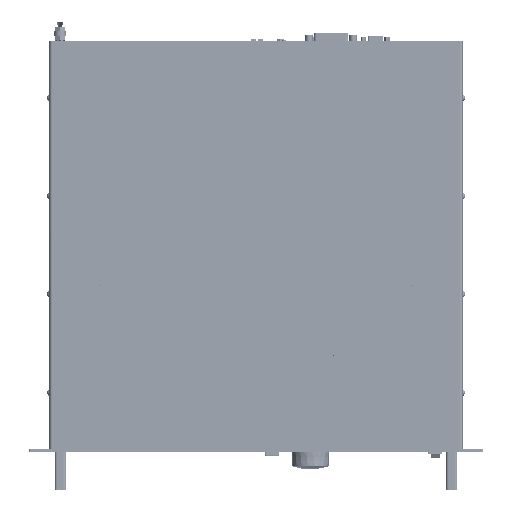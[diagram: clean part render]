
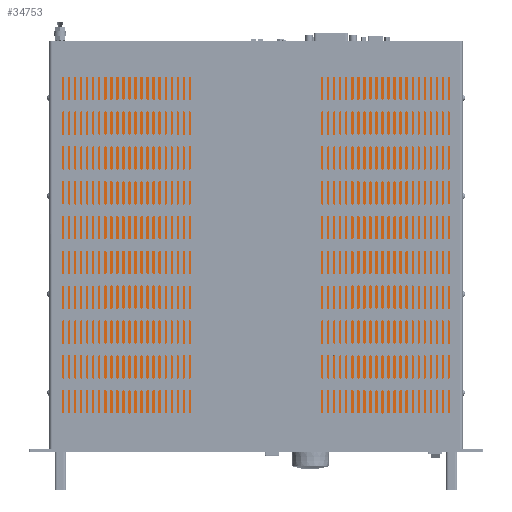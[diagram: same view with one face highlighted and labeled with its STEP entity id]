
A CAD part, top view. The second image highlights one B-rep face of the part: STEP entity #34753.
In plain terms, the highlighted planar face has unit normal (0, 0, 1).
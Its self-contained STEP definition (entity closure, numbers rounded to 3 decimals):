
#34753=ADVANCED_FACE('',(#76250),#76251,.T.);
#76250=FACE_OUTER_BOUND('',#154777,.T.);
#76251=PLANE('',#154778);
#154777=EDGE_LOOP('',(#257430,#257431,#257432,#257433));
#154778=AXIS2_PLACEMENT_3D('',#257434,#257435,#257436);
#257430=ORIENTED_EDGE('',*,*,#346480,.T.);
#257431=ORIENTED_EDGE('',*,*,#346456,.T.);
#257432=ORIENTED_EDGE('',*,*,#346481,.T.);
#257433=ORIENTED_EDGE('',*,*,#346482,.T.);
#257434=CARTESIAN_POINT('',(218.427,214.875,85.548));
#257435=DIRECTION('',(0.0,0.0,1.0));
#257436=DIRECTION('',(0.0,-1.0,0.0));
#346456=EDGE_CURVE('',#415673,#415671,#415674,.F.);
#346480=EDGE_CURVE('',#415700,#415673,#415701,.F.);
#346481=EDGE_CURVE('',#415671,#415702,#415703,.F.);
#346482=EDGE_CURVE('',#415702,#415700,#415704,.F.);
#415671=VERTEX_POINT('',#516061);
#415673=VERTEX_POINT('',#516064);
#415674=LINE('',#516065,#516066);
#415700=VERTEX_POINT('',#516097);
#415701=LINE('',#516098,#516099);
#415702=VERTEX_POINT('',#516100);
#415703=LINE('',#516101,#516102);
#415704=LINE('',#516103,#516104);
#516061=CARTESIAN_POINT('',(3.,428.75,85.548));
#516064=CARTESIAN_POINT('',(433.855,428.75,85.548));
#516065=CARTESIAN_POINT('',(218.427,428.75,85.548));
#516066=VECTOR('',#592466,1.0);
#516097=CARTESIAN_POINT('',(433.855,3.75,85.548));
#516098=CARTESIAN_POINT('',(433.855,214.875,85.548));
#516099=VECTOR('',#592472,1.0);
#516100=CARTESIAN_POINT('',(3.,3.75,85.548));
#516101=CARTESIAN_POINT('',(3.,214.875,85.548));
#516102=VECTOR('',#592473,1.0);
#516103=CARTESIAN_POINT('',(218.427,3.75,85.548));
#516104=VECTOR('',#592474,1.0);
#592466=DIRECTION('',(1.0,0.0,0.0));
#592472=DIRECTION('',(0.0,-1.0,0.0));
#592473=DIRECTION('',(0.0,1.0,0.0));
#592474=DIRECTION('',(-1.0,0.0,0.0));
